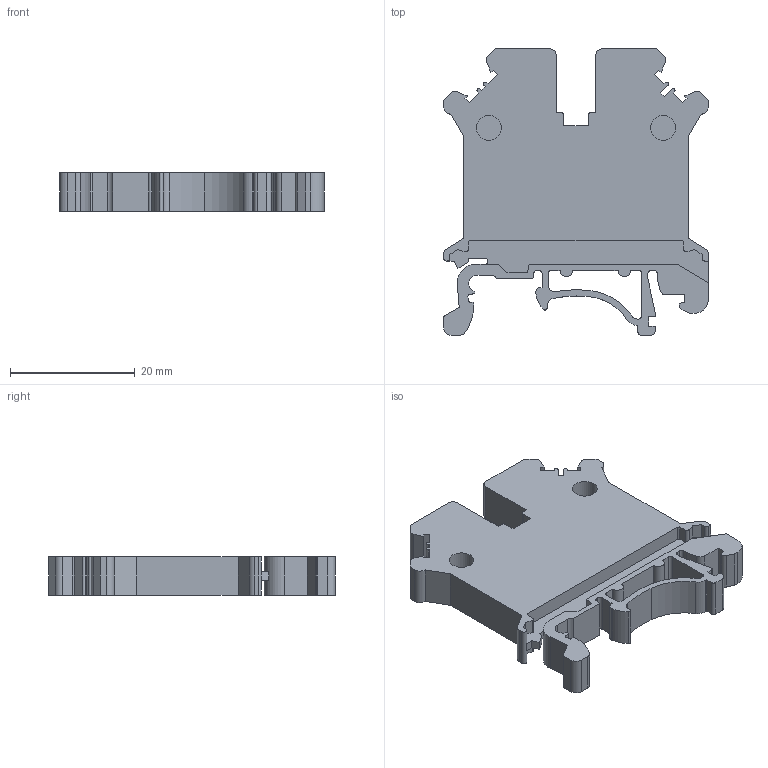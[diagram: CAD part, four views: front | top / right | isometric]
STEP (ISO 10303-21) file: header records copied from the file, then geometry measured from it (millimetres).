
FILE_DESCRIPTION(/* description */ (''),/* implementation_level */ '2;1');
FILE_NAME(/* name */ 'JUT1-4.stp',/* time_stamp */ '2023-02-14T15:04:38+08:00',/* author */ (''),/* organization */ (''),/* preprocessor_version */ 'ST-DEVELOPER v16.7',/* originating_system */ 'SIEMENS PLM Software NX 12.0',/* authorisation */ '');
FILE_SCHEMA (('AP203_CONFIGURATION_CONTROLLED_3D_DESIGN_OF_MECHANICAL_PARTS_AND_ASSEMBLIES_MIM_LF { 1 0 10303 403 2 1 2}'));
Length unit declared in the file: millimetre
Products named in the file (1): Admi01CC23451nqx
Bounding box: 42.5 x 46 x 6.2 mm (x, y, z)
Volume: 7261.8 mm3; surface area: 5135.9 mm2
Topology: 1 solids, 1 shells, 206 faces, 600 edges, 400 vertices
Faces by surface type: plane 140, cylinder 66
Full cylindrical faces by diameter (mm): 2 x1, 3 x1, 4 x2
Entity records: 6884 total; most frequent: CARTESIAN_POINT 1203, ORIENTED_EDGE 1192, DIRECTION 1144, EDGE_CURVE 596, LINE 462, VECTOR 462, VERTEX_POINT 400, AXIS2_PLACEMENT_3D 341
